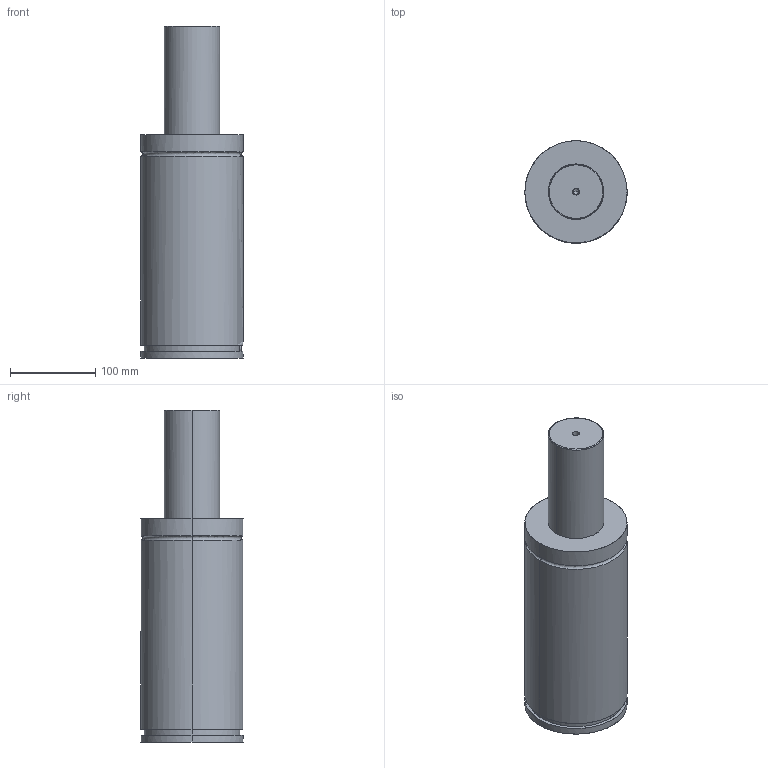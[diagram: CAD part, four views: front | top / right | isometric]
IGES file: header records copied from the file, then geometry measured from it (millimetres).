
Global section: file name: E:\UnigraphicsGraphicData\MISUMI_PRESS-PARTS\IGES\3d_gse120-125_03890_r00.igs; native system: NX V5.0; preprocessor: UGS NX IGES V5.0; author: MISUMI; date: 20110105.160751; units: millimetre
Bounding box: 120 x 120 x 390 mm (x, y, z)
Surface area: 154472.6 mm2 (no closed solid volume)
Topology: 0 solids, 0 shells, 75 faces, 604 edges, 602 vertices
Faces by surface type: bspline 75
